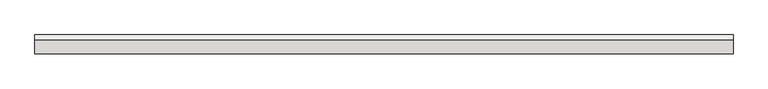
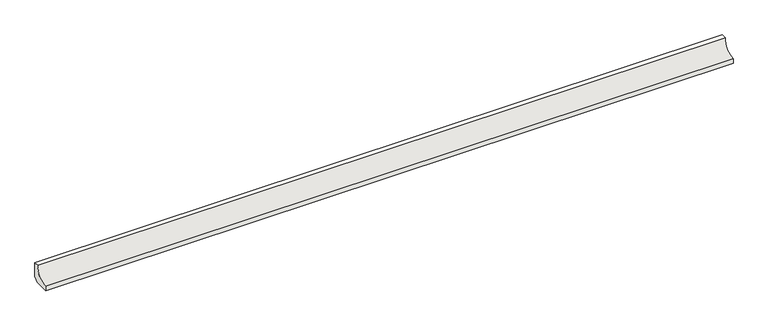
"""IFC4 building model written with IfcOpenShell, lengths in millimetres: slab geometry, ROSA GRES_188 : Pieza 188_Tresor_Java_Anti-Slip."""

from ifc_helpers import new_model, si_unit, point, frame, frame_2d, origin, place, context, project, spatial, polyline, circle_curve, trimmed, segment, composite_curve, outline, extrude, source, transform, mapped, element, save


def slab_67165a62(model_context):
    return source(origin(), model_context, "Body", "SweptSolid", [
        extrude(outline(composite_curve([segment(polyline([(0.0, 8.7114978), (-8.7114978, 0.0), (-40.0, 0.0), (-40.0, 9.9734114)]), True, "CONTINUOUS"), segment(trimmed(circle_curve(frame_2d((-39.9955547, 39.9955547)), 30.0221435), [point((-40.0, 9.9734114))], [point((-9.9734114, 40.0))], True, "CARTESIAN"), True, "CONTINUOUS"), segment(polyline([(-9.9734114, 40.0), (0.0, 40.0), (0.0, 8.7114978)]), True, "CONTINUOUS")], self_intersect=False)), frame((0.0, 0.0, 0.0), z_axis=(1.0, 0.0, 0.0), x_axis=(0.0, 1.0, 0.0)), (0.0, 0.0, 1.0), 1480.0),
    ])


if __name__ == "__main__":
    model = new_model("IFC4")
    model_context = context("Model", 3, world=origin())
    ifc_project = project(units=[si_unit("LENGTHUNIT", "METRE", prefix="MILLI")], contexts=[model_context])
    site = spatial("IfcSite", under=ifc_project)
    building = spatial("IfcBuilding", under=site)
    placement = place(None, origin())
    slab_shape = slab_67165a62(model_context)
    element("IfcSlab", 1, ObjectType="ROSA GRES_188 : Pieza 188_Tresor_Java_Anti-Slip", at=placement, inside=building, context=model_context, shape_type="MappedRepresentation", body=[
        mapped(slab_shape, transform((0.0, 0.0, 0.0), x_axis=(1.0, 0.0, 0.0), y_axis=(0.0, 1.0, 0.0), z_axis=(0.0, 0.0, 1.0))),
    ])
    save(model, "model.ifc")
